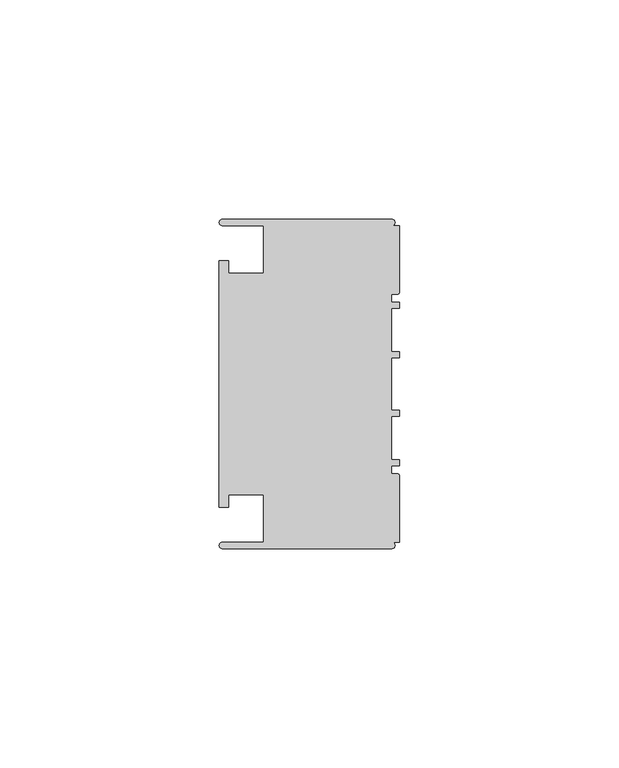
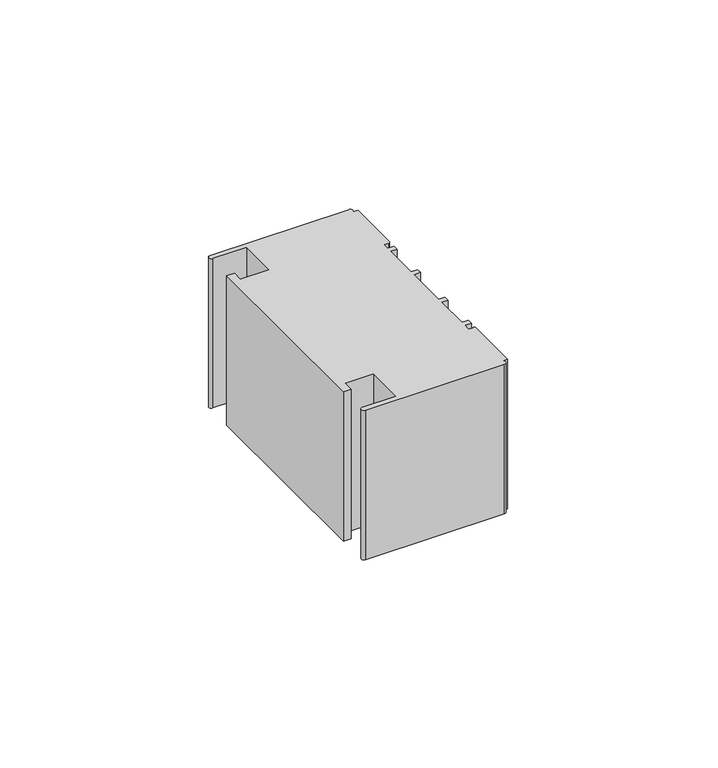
"""IFC4 building model written with IfcOpenShell, lengths in millimetres: member geometry, Прямоугольный импост : 3-AMG-2-Профиль 40Х75 Верх П."""

import ifcopenshell
import ifcopenshell.guid

model = None  # the IFC model being written
_history = None  # IfcOwnerHistory: only IFC2X3 demands one
_inside = {}  # id of a spatial element -> (the spatial element, [elements in it])
_under = {}  # id of a project, library or spatial element -> (it, [spatial elements below it])
_declared = {}  # id of a project -> (the project, [libraries it declares])
_typed = {}  # id of a type object -> (the type object, [elements of that type])
_made_of = {}  # id of a material, layer set ... -> (it, [elements and type objects made of it])


def new_model(schema):
    """Start an empty IFC model of exactly this schema.

    Asked for "IFC4X3", IfcOpenShell would pick the latest addendum, in which some entities
    have other attributes; the version numbers below select the first issue.
    IFC2X3 requires an IfcOwnerHistory on every rooted entity: one is made here for all.
    """
    global model, _history
    if schema == "IFC4X3":
        model = ifcopenshell.file(schema_version=(4, 3, 0, 0))
    else:
        model = ifcopenshell.file(schema=schema)
    _inside.clear()
    _under.clear()
    _declared.clear()
    _typed.clear()
    _made_of.clear()
    _history = None
    if model.schema == "IFC2X3":
        org = make("IfcOrganization", Name="unknown")
        user = make(
            "IfcPersonAndOrganization",
            ThePerson=make("IfcPerson", FamilyName="unknown"),
            TheOrganization=org,
        )
        app = make(
            "IfcApplication",
            ApplicationDeveloper=org,
            Version="unknown",
            ApplicationFullName="unknown",
            ApplicationIdentifier="unknown",
        )
        _history = make(
            "IfcOwnerHistory",
            OwningUser=user,
            OwningApplication=app,
            ChangeAction="ADDED",
            CreationDate=0,
        )
    return model


def make(cls, **values):
    """One entity of the class cls with the attributes given. An attribute that is None is left unset."""
    return model.create_entity(
        cls, **{name: value for name, value in values.items() if value is not None}
    )


def rooted(cls, **values):
    """An entity with a GlobalId (a new one), such as an element, a storey or a relation."""
    return make(cls, GlobalId=ifcopenshell.guid.new(), OwnerHistory=_history, **values)


def si_unit(unit_type, name, prefix=None):
    """IfcSIUnit, for example si_unit("LENGTHUNIT", "METRE", prefix="MILLI")."""
    return make("IfcSIUnit", UnitType=unit_type, Prefix=prefix, Name=name)


def assignment(units):
    """IfcUnitAssignment: the units of a project."""
    return None if units is None else make("IfcUnitAssignment", Units=units)


def point(xyz):
    """IfcCartesianPoint."""
    return None if xyz is None else make("IfcCartesianPoint", Coordinates=xyz)


def direction(xyz):
    """IfcDirection."""
    return None if xyz is None else make("IfcDirection", DirectionRatios=xyz)


def frame(location, z_axis=None, x_axis=None):
    """IfcAxis2Placement3D, a coordinate frame: its origin and axes. An axis left out is left unset."""
    return make(
        "IfcAxis2Placement3D",
        Location=point(location),
        Axis=direction(z_axis),
        RefDirection=direction(x_axis),
    )


def frame_2d(location, x_axis=None):
    """IfcAxis2Placement2D, a coordinate frame in the plane: its origin and x axis."""
    return make(
        "IfcAxis2Placement2D", Location=point(location), RefDirection=direction(x_axis)
    )


def origin():
    """The frame at (0, 0, 0) with its axes left unset."""
    return frame((0.0, 0.0, 0.0))


def place(relative_to, where):
    """IfcLocalPlacement: puts the frame where relative to a parent placement (None: the world)."""
    return make(
        "IfcLocalPlacement", PlacementRelTo=relative_to, RelativePlacement=where
    )


def context(
    kind, dimensions, precision=None, world=None, true_north=None, identifier=None
):
    """IfcGeometricRepresentationContext, for example the 3D "Model" context."""
    return make(
        "IfcGeometricRepresentationContext",
        ContextIdentifier=identifier,
        ContextType=kind,
        CoordinateSpaceDimension=dimensions,
        Precision=precision,
        WorldCoordinateSystem=world,
        TrueNorth=true_north,
    )


def project(units=None, contexts=None):
    """IfcProject with its units and contexts."""
    return rooted(
        "IfcProject",
        Name="project",
        RepresentationContexts=contexts,
        UnitsInContext=assignment(units),
    )


def spatial(cls, under=None, at=None, **own):
    """A site, building, storey or space (cls), placed at a placement, below another one or the project."""
    s = rooted(cls, ObjectPlacement=at, **own)
    if under is not None:
        _under.setdefault(under.id(), (under, []))[1].append(s)
    return s


def polyline(points):
    """IfcPolyline through the points."""
    return make("IfcPolyline", Points=[point(p) for p in points])


def circle_curve(where, radius):
    """IfcCircle in the frame where."""
    return make("IfcCircle", Position=where, Radius=radius)


def trimmed(basis, trim1, trim2, sense, master):
    """IfcTrimmedCurve: the piece of a basis curve between two trims."""
    return make(
        "IfcTrimmedCurve",
        BasisCurve=basis,
        Trim1=trim1,
        Trim2=trim2,
        SenseAgreement=sense,
        MasterRepresentation=master,
    )


def segment(curve, same_sense, transition):
    """IfcCompositeCurveSegment."""
    return make(
        "IfcCompositeCurveSegment",
        Transition=transition,
        SameSense=same_sense,
        ParentCurve=curve,
    )


def composite_curve(segments, self_intersect=None):
    """IfcCompositeCurve: segments joined end to end."""
    return make("IfcCompositeCurve", Segments=segments, SelfIntersect=self_intersect)


def outline(outer, holes=None, kind="AREA"):
    """IfcArbitraryClosedProfileDef: a profile drawn as a closed curve; with holes, ...WithVoids."""
    if holes is None:
        return make("IfcArbitraryClosedProfileDef", ProfileType=kind, OuterCurve=outer)
    return make(
        "IfcArbitraryProfileDefWithVoids",
        ProfileType=kind,
        OuterCurve=outer,
        InnerCurves=holes,
    )


def extrude(swept, where, along, depth):
    """IfcExtrudedAreaSolid: the profile swept, set in the frame where, extruded along a direction by depth."""
    return make(
        "IfcExtrudedAreaSolid",
        SweptArea=swept,
        Position=where,
        ExtrudedDirection=direction(along),
        Depth=depth,
    )


def shape(context_of_items, identifier, shape_type, items):
    """IfcShapeRepresentation: the items that make up one representation, for example the "Body"."""
    return make(
        "IfcShapeRepresentation",
        ContextOfItems=context_of_items,
        RepresentationIdentifier=identifier,
        RepresentationType=shape_type,
        Items=items,
    )


def source(mapping_origin, context_of_items, identifier, shape_type, items):
    """IfcRepresentationMap: a shape defined once, which mapped items show again and again."""
    return make(
        "IfcRepresentationMap",
        MappingOrigin=mapping_origin,
        MappedRepresentation=shape(context_of_items, identifier, shape_type, items),
    )


def transform(
    local_origin,
    x_axis=None,
    y_axis=None,
    z_axis=None,
    scale=None,
    scale2=None,
    scale3=None,
    uniform=True,
):
    """IfcCartesianTransformationOperator3D, or its non-uniform kind. x_axis, y_axis, z_axis: its Axis1, 2, 3."""
    if uniform:
        return make(
            "IfcCartesianTransformationOperator3D",
            Axis1=direction(x_axis),
            Axis2=direction(y_axis),
            LocalOrigin=point(local_origin),
            Scale=scale,
            Axis3=direction(z_axis),
        )
    return make(
        "IfcCartesianTransformationOperator3DnonUniform",
        Axis1=direction(x_axis),
        Axis2=direction(y_axis),
        LocalOrigin=point(local_origin),
        Scale=scale,
        Axis3=direction(z_axis),
        Scale2=scale2,
        Scale3=scale3,
    )


def mapped(mapping_source, mapping_target):
    """IfcMappedItem: shows the shape of a source again, moved by a transform."""
    return make(
        "IfcMappedItem", MappingSource=mapping_source, MappingTarget=mapping_target
    )


def made_of(thing, what):
    """Note that an element or type object is made of a material, layer set ...; save() writes the relation."""
    if what is not None:
        _made_of.setdefault(what.id(), (what, []))[1].append(thing)
    return thing


def element(
    cls,
    number,
    at=None,
    inside=None,
    cuts=None,
    type_object=None,
    material=None,
    context=None,
    identifier="Body",
    shape_type=None,
    held_by="IfcProductDefinitionShape",
    body=None,
    shapes=None,
    **own,
):
    """One element of the class cls, such as IfcWall. Its Tag is "e" and its number.

    at: its placement. inside: the storey or other place that contains it. cuts: it is an
    opening in that element (IfcRelVoidsElement). A single representation is given by context,
    identifier, shape_type and body (its items); several are given by shapes. held_by: the class
    of the entity that holds the representations. save() writes the other relations.
    """
    e = rooted(cls, Tag="e%d" % number, ObjectPlacement=at, **own)
    if body is not None:
        shapes = [shape(context, identifier, shape_type, body)]
    if shapes is not None:
        e.Representation = make(held_by, Representations=shapes)
    if inside is not None:
        _inside.setdefault(inside.id(), (inside, []))[1].append(e)
    if cuts is not None:
        rooted(
            "IfcRelVoidsElement", RelatingBuildingElement=cuts, RelatedOpeningElement=e
        )
    if type_object is not None:
        _typed.setdefault(type_object.id(), (type_object, []))[1].append(e)
    return made_of(e, material)


def aggregate(whole, parts):
    """IfcRelAggregates: a whole, such as a stair, and the parts it consists of."""
    return rooted("IfcRelAggregates", RelatingObject=whole, RelatedObjects=parts)


def save(model, path):
    """Write the relations noted so far, then the file.

    IfcRelAggregates (storeys below a building ...), IfcRelContainedInSpatialStructure (elements
    in a storey), IfcRelDefinesByType, IfcRelAssociatesMaterial and IfcRelDeclares: one each for
    every whole, place, type object, material and project.
    """
    for whole, parts in _under.values():
        aggregate(whole, parts)
    for where, things in _inside.values():
        rooted(
            "IfcRelContainedInSpatialStructure",
            RelatedElements=things,
            RelatingStructure=where,
        )
    for kind, things in _typed.values():
        rooted("IfcRelDefinesByType", RelatedObjects=things, RelatingType=kind)
    for what, things in _made_of.values():
        rooted("IfcRelAssociatesMaterial", RelatedObjects=things, RelatingMaterial=what)
    for by, libraries in _declared.values():
        rooted("IfcRelDeclares", RelatingContext=by, RelatedDefinitions=libraries)
    model.write(path)


def member_fbdf62f5(model_context):
    return source(origin(), model_context, "Body", "SweptSolid", [
        extrude(outline(composite_curve([segment(polyline([(-1.7, -37.5), (-40.4, -37.5)]), True, "CONTINUOUS"), segment(trimmed(circle_curve(frame_2d((-40.4, -36.8)), 0.7), [point((-40.4, -37.5))], [point((-40.4, -36.1))], False, "CARTESIAN"), True, "CONTINUOUS"), segment(polyline([(-40.4, -36.1), (-31.0, -36.1), (-31.0, -25.25), (-39.0, -25.25), (-39.0, -28.1), (-41.1, -28.1), (-41.1, 28.1), (-39.0, 28.1), (-39.0, 25.25), (-31.0, 25.25), (-31.0, 36.1), (-40.4, 36.1)]), True, "CONTINUOUS"), segment(trimmed(circle_curve(frame_2d((-40.4, 36.8)), 0.7), [point((-40.4, 36.1))], [point((-40.4, 37.5))], False, "CARTESIAN"), True, "CONTINUOUS"), segment(polyline([(-40.4, 37.5), (-1.7, 37.5)]), True, "CONTINUOUS"), segment(trimmed(circle_curve(frame_2d((-1.7, 36.8)), 0.7), [point((-1.7, 37.5))], [point((-1.7, 36.1))], False, "CARTESIAN"), True, "CONTINUOUS"), segment(polyline([(-1.7, 36.1), (0.0, 36.1), (0.0, 20.95)]), True, "CONTINUOUS"), segment(trimmed(circle_curve(frame_2d((-0.5, 20.95)), 0.5), [point((0.0, 20.95))], [point((-0.5, 20.45))], False, "CARTESIAN"), True, "CONTINUOUS"), segment(polyline([(-0.5, 20.45), (-1.8, 20.45), (-1.8, 18.65), (0.0, 18.65), (0.0, 17.25), (-1.8, 17.25), (-1.8, 7.4), (0.0, 7.4), (0.0, 6.0), (-1.8, 6.0), (-1.8, -6.0), (0.0, -6.0), (0.0, -7.4), (-1.8, -7.4), (-1.8, -17.25), (0.0, -17.25), (0.0, -18.65), (-1.8, -18.65), (-1.8, -20.45), (-0.5, -20.45)]), True, "CONTINUOUS"), segment(trimmed(circle_curve(frame_2d((-0.5, -20.95)), 0.5), [point((-0.5, -20.45))], [point((0.0, -20.95))], False, "CARTESIAN"), True, "CONTINUOUS"), segment(polyline([(0.0, -20.95), (0.0, -36.1), (-1.7, -36.1)]), True, "CONTINUOUS"), segment(trimmed(circle_curve(frame_2d((-1.7, -36.8)), 0.7), [point((-1.7, -36.1))], [point((-1.7, -37.5))], False, "CARTESIAN"), True, "CONTINUOUS")], self_intersect=False)), frame((0.0, 0.0, -43.9899758), z_axis=(0.0, 0.0, 1.0), x_axis=(1.0, 0.0, 0.0)), (0.0, 0.0, 1.0), 43.9899758),
    ])


if __name__ == "__main__":
    model = new_model("IFC4")
    model_context = context("Model", 3, world=origin())
    ifc_project = project(units=[si_unit("LENGTHUNIT", "METRE", prefix="MILLI")], contexts=[model_context])
    site = spatial("IfcSite", under=ifc_project)
    building = spatial("IfcBuilding", under=site)
    placement = place(None, origin())
    member_shape = member_fbdf62f5(model_context)
    element("IfcMember", 1, ObjectType="Прямоугольный импост : 3-AMG-2-Профиль 40Х75 Верх П", at=placement, inside=building, context=model_context, shape_type="MappedRepresentation", body=[
        mapped(member_shape, transform((0.0, 0.0, 0.0), x_axis=(1.0, 0.0, 0.0), y_axis=(0.0, 1.0, 0.0), z_axis=(0.0, 0.0, 1.0))),
    ])
    save(model, "model.ifc")
